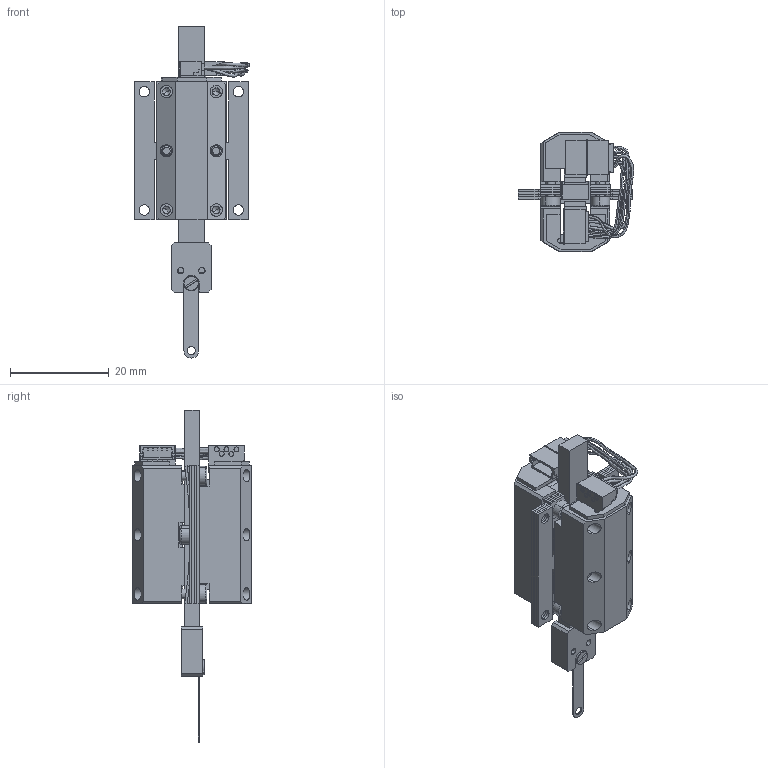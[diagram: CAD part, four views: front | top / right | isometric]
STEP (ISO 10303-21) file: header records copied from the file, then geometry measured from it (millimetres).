
FILE_DESCRIPTION (( 'STEP AP214' ), '1' );
FILE_NAME ('LT4050C-050D1A00-PiezoMotor.STEP', '2017-08-21T08:22:36', ( '' ), ( '' ), 'SwSTEP 2.0', 'SolidWorks 2016', '' );
FILE_SCHEMA (( 'AUTOMOTIVE_DESIGN' ));
Length unit declared in the file: millimetre
Products named in the file (3): LT4050C-050D1A00-PiezoMotor; LT4050C_DriveRod_050D1D2-PiezoMotor; LT4050C-xxxxxA00-PiezoMotor
Assembly tree (2 placements, depth 2):
  LT4050C-050D1A00-PiezoMotor
    LT4050C-xxxxxA00-PiezoMotor
    LT4050C_DriveRod_050D1D2-PiezoMotor
Bounding box: 23.37 x 24.18 x 67.35 mm (x, y, z)
Volume: 8304.5 mm3; surface area: 14013.7 mm2
Topology: 48 solids, 48 shells, 1369 faces, 3539 edges, 2273 vertices
Faces by surface type: plane 1044, cylinder 248, cone 43, torus 24, bspline 10
Entity records: 46375 total; most frequent: CARTESIAN_POINT 10678, ORIENTED_EDGE 7054, DIRECTION 6820, EDGE_CURVE 3527, LINE 2886, VECTOR 2886, VERTEX_POINT 2273, AXIS2_PLACEMENT_3D 1967
